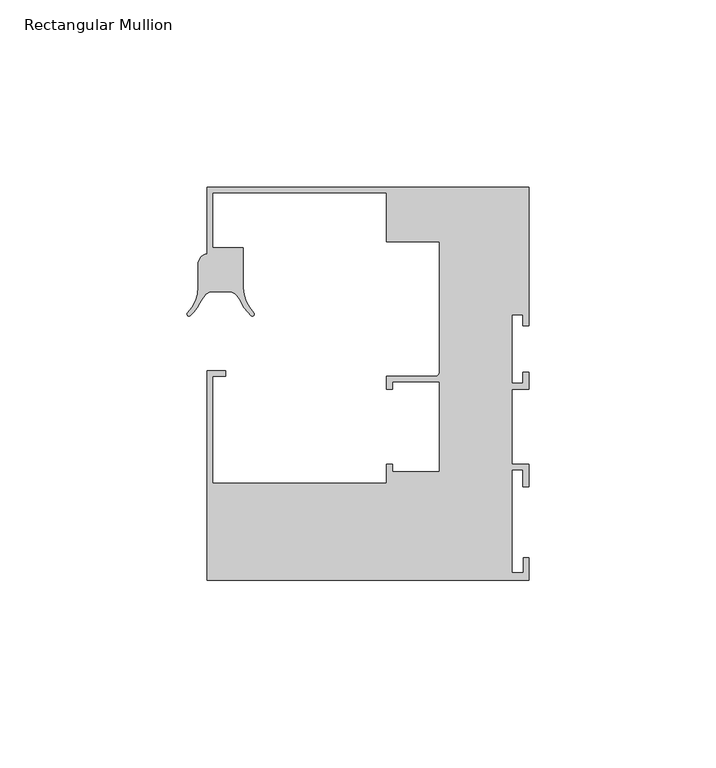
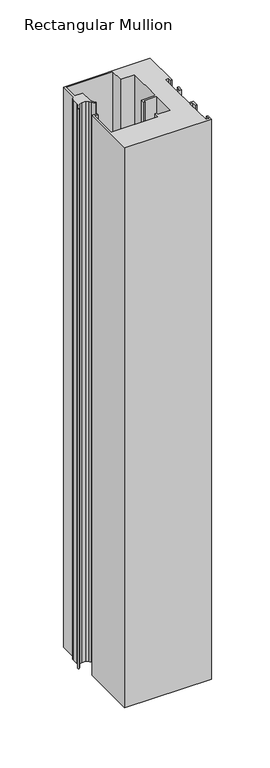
"""IFC4 building model written with IfcOpenShell, lengths in millimetres: member geometry, Rectangular Mullion : Danpal_Airpt_End-Mullion_B1."""

from ifc_helpers import new_model, si_unit, point, frame, frame_2d, origin, place, context, project, spatial, polyline, circle_curve, trimmed, segment, composite_curve, outline, extrude, source, transform, mapped, element, save


def rectangular_mullion_4e418ae6(model_context):
    return source(origin(), model_context, "Body", "SweptSolid", [
        extrude(outline(composite_curve([segment(polyline([(-84.5, -44.249979), (-38.0, -44.249979), (-38.0, -39.2500001), (-36.4, -39.2500001), (-36.4, -41.2500001), (-23.9180899, -41.2500001), (-23.9180899, -17.2500031), (-36.4180899, -17.2500031), (-36.4180899, -19.2500031), (-38.0180899, -19.2500031), (-38.0180899, -15.7500031), (-24.969716, -15.7500031)]), True, "CONTINUOUS"), segment(trimmed(circle_curve(frame_2d((-24.969716, -14.698377)), 1.0516261), [point((-24.969716, -15.7500031))], [point((-23.9180899, -14.698377))], True, "CARTESIAN"), True, "CONTINUOUS"), segment(polyline([(-23.9180899, -14.698377), (-23.9180899, 20.2499969), (-38.0180899, 20.2499969), (-38.0180899, 33.2499969), (-84.5180945, 33.2499969), (-84.5180945, 18.6499969), (-76.3180945, 18.6499969), (-76.3180945, 7.8643287)]), True, "CONTINUOUS"), segment(trimmed(circle_curve(frame_2d((-66.322244, 8.1523787)), 10.0), [point((-76.3180945, 7.8643287))], [point((-73.5120728, 1.2021009))], True, "CARTESIAN"), True, "CONTINUOUS"), segment(trimmed(circle_curve(frame_2d((-73.8718016, 0.8543575)), 0.5003301), [point((-73.5120728, 1.2021009))], [point((-74.1944462, 0.4719563))], False, "CARTESIAN"), True, "CONTINUOUS"), segment(trimmed(circle_curve(frame_2d((-67.7458114, 8.1149337)), 9.9999997), [point((-74.1944462, 0.4719563))], [point((-76.759944, 3.7853369))], False, "CARTESIAN"), True, "CONTINUOUS"), segment(trimmed(circle_curve(frame_2d((-85.7740768, -0.5442599)), 10.0), [point((-76.759944, 3.7853369))], [point((-77.9898528, 5.7331484))], True, "CARTESIAN"), True, "CONTINUOUS"), segment(trimmed(circle_curve(frame_2d((-80.32512, 3.8499259)), 3.0), [point((-77.9898528, 5.7331484))], [point((-80.32512, 6.8499259))], True, "CARTESIAN"), True, "CONTINUOUS"), segment(polyline([(-80.32512, 6.8499259), (-84.363764, 6.8499259)]), True, "CONTINUOUS"), segment(trimmed(circle_curve(frame_2d((-84.363764, 3.8499259)), 3.0), [point((-84.363764, 6.8499259))], [point((-86.6990305, 5.7331494))], True, "CARTESIAN"), True, "CONTINUOUS"), segment(trimmed(circle_curve(frame_2d((-78.9148092, -0.544262)), 9.9999997), [point((-86.6990305, 5.7331494))], [point((-87.9289412, 3.785336))], True, "CARTESIAN"), True, "CONTINUOUS"), segment(trimmed(circle_curve(frame_2d((-96.9430732, 8.114934)), 9.9999998), [point((-87.9289412, 3.785336))], [point((-90.4970116, 0.4697862))], False, "CARTESIAN"), True, "CONTINUOUS"), segment(trimmed(circle_curve(frame_2d((-90.8194227, 0.8521716)), 0.5001675), [point((-90.4970116, 0.4697862))], [point((-91.1789286, 1.1999114))], False, "CARTESIAN"), True, "CONTINUOUS"), segment(trimmed(circle_curve(frame_2d((-98.3666403, 8.1523787)), 10.0), [point((-91.1789286, 1.1999114))], [point((-88.3666989, 8.1181379))], True, "CARTESIAN"), True, "CONTINUOUS"), segment(polyline([(-88.3666989, 8.1181379), (-88.3666989, 14.1183419)]), True, "CONTINUOUS"), segment(trimmed(circle_curve(frame_2d((-85.366716, 14.1081309)), 3.0000002), [point((-88.3666989, 14.1183419))], [point((-86.0180914, 17.0365625))], False, "CARTESIAN"), True, "CONTINUOUS"), segment(polyline([(-86.0180914, 17.0365625), (-86.0180914, 34.75), (-0.0180922, 34.75), (-0.0180922, -2.25), (-1.5180922, -2.25), (-1.5180922, 0.75), (-4.5180922, 0.75), (-4.5180922, -17.65), (-1.5180922, -17.65), (-1.5180922, -14.65), (-0.0180922, -14.65), (-0.0180922, -19.25), (-4.5, -19.25), (-4.5, -39.2500001), (-0.0180937, -39.2500001), (-0.0180937, -45.2500001), (-1.5180937, -45.2500001), (-1.5180937, -40.7500001), (-4.5, -40.7500001), (-4.5, -68.2500001), (-1.5, -68.2500001), (-1.5, -64.2500001), (0.0, -64.2500001), (0.0, -70.2500001), (-86.0, -70.2500001), (-86.0, -14.2500001), (-81.0, -14.2500001), (-81.0, -15.7500001), (-84.5, -15.7500001), (-84.5, -44.249979)]), True, "CONTINUOUS")], self_intersect=False)), frame((0.0, 0.0, -586.3680922), z_axis=(0.0, 0.0, 1.0), x_axis=(1.0, 0.0, 0.0)), (0.0, 0.0, 1.0), 586.3680922),
    ])


if __name__ == "__main__":
    model = new_model("IFC4")
    model_context = context("Model", 3, world=origin())
    ifc_project = project(units=[si_unit("LENGTHUNIT", "METRE", prefix="MILLI")], contexts=[model_context])
    site = spatial("IfcSite", under=ifc_project)
    building = spatial("IfcBuilding", under=site)
    placement = place(None, origin())
    rectangular_mullion_shape = rectangular_mullion_4e418ae6(model_context)
    element("IfcMember", 1, ObjectType="Rectangular Mullion : Danpal_Airpt_End-Mullion_B1", at=placement, inside=building, context=model_context, shape_type="MappedRepresentation", body=[
        mapped(rectangular_mullion_shape, transform((0.0, 0.0, 0.0), x_axis=(1.0, 0.0, 0.0), y_axis=(0.0, 1.0, 0.0), z_axis=(0.0, 0.0, 1.0))),
    ])
    save(model, "model.ifc")
